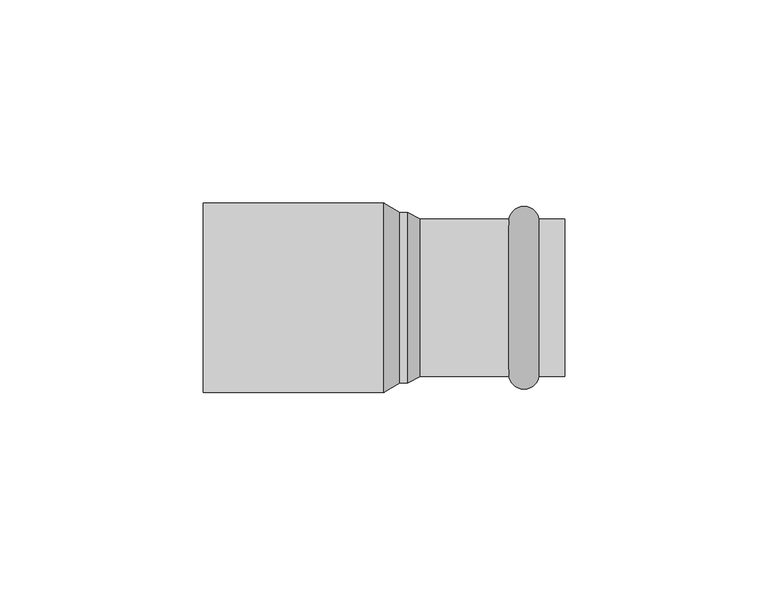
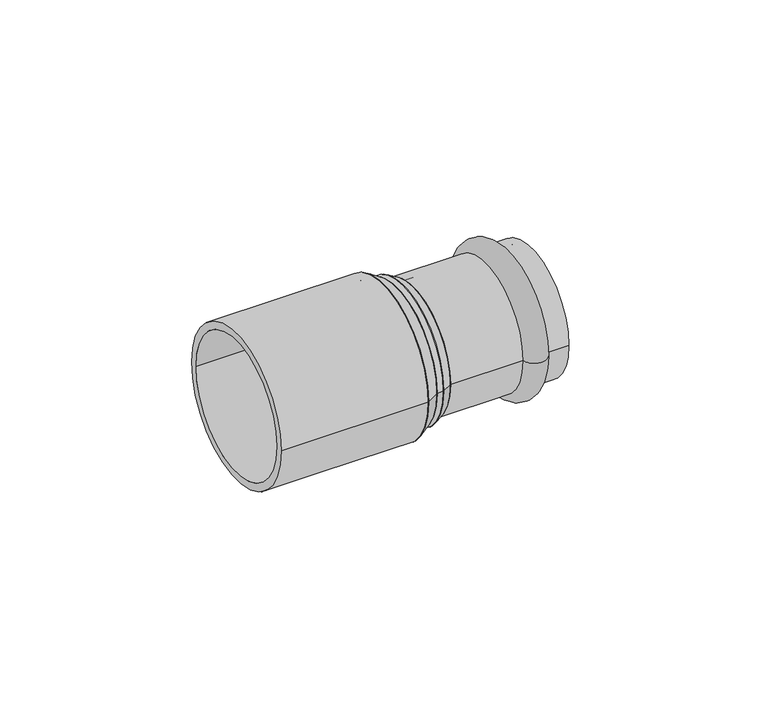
"""IFC4 building model written with IfcOpenShell, lengths in millimetres: pipe fitting geometry, VALTEC_VTi.905.I_Вставка переходная_Нержавеющая сталь : VTi.905.I."""

import ifcopenshell
import ifcopenshell.guid

model = None  # the IFC model being written
_history = None  # IfcOwnerHistory: only IFC2X3 demands one
_inside = {}  # id of a spatial element -> (the spatial element, [elements in it])
_under = {}  # id of a project, library or spatial element -> (it, [spatial elements below it])
_declared = {}  # id of a project -> (the project, [libraries it declares])
_typed = {}  # id of a type object -> (the type object, [elements of that type])
_made_of = {}  # id of a material, layer set ... -> (it, [elements and type objects made of it])


def new_model(schema):
    """Start an empty IFC model of exactly this schema.

    Asked for "IFC4X3", IfcOpenShell would pick the latest addendum, in which some entities
    have other attributes; the version numbers below select the first issue.
    IFC2X3 requires an IfcOwnerHistory on every rooted entity: one is made here for all.
    """
    global model, _history
    if schema == "IFC4X3":
        model = ifcopenshell.file(schema_version=(4, 3, 0, 0))
    else:
        model = ifcopenshell.file(schema=schema)
    _inside.clear()
    _under.clear()
    _declared.clear()
    _typed.clear()
    _made_of.clear()
    _history = None
    if model.schema == "IFC2X3":
        org = make("IfcOrganization", Name="unknown")
        user = make(
            "IfcPersonAndOrganization",
            ThePerson=make("IfcPerson", FamilyName="unknown"),
            TheOrganization=org,
        )
        app = make(
            "IfcApplication",
            ApplicationDeveloper=org,
            Version="unknown",
            ApplicationFullName="unknown",
            ApplicationIdentifier="unknown",
        )
        _history = make(
            "IfcOwnerHistory",
            OwningUser=user,
            OwningApplication=app,
            ChangeAction="ADDED",
            CreationDate=0,
        )
    return model


def make(cls, **values):
    """One entity of the class cls with the attributes given. An attribute that is None is left unset."""
    return model.create_entity(
        cls, **{name: value for name, value in values.items() if value is not None}
    )


def rooted(cls, **values):
    """An entity with a GlobalId (a new one), such as an element, a storey or a relation."""
    return make(cls, GlobalId=ifcopenshell.guid.new(), OwnerHistory=_history, **values)


def si_unit(unit_type, name, prefix=None):
    """IfcSIUnit, for example si_unit("LENGTHUNIT", "METRE", prefix="MILLI")."""
    return make("IfcSIUnit", UnitType=unit_type, Prefix=prefix, Name=name)


def assignment(units):
    """IfcUnitAssignment: the units of a project."""
    return None if units is None else make("IfcUnitAssignment", Units=units)


def point(xyz):
    """IfcCartesianPoint."""
    return None if xyz is None else make("IfcCartesianPoint", Coordinates=xyz)


def direction(xyz):
    """IfcDirection."""
    return None if xyz is None else make("IfcDirection", DirectionRatios=xyz)


def frame(location, z_axis=None, x_axis=None):
    """IfcAxis2Placement3D, a coordinate frame: its origin and axes. An axis left out is left unset."""
    return make(
        "IfcAxis2Placement3D",
        Location=point(location),
        Axis=direction(z_axis),
        RefDirection=direction(x_axis),
    )


def frame_2d(location, x_axis=None):
    """IfcAxis2Placement2D, a coordinate frame in the plane: its origin and x axis."""
    return make(
        "IfcAxis2Placement2D", Location=point(location), RefDirection=direction(x_axis)
    )


def origin():
    """The frame at (0, 0, 0) with its axes left unset."""
    return frame((0.0, 0.0, 0.0))


def origin_2d():
    """The frame at (0, 0) in the plane with its x axis left unset."""
    return frame_2d((0.0, 0.0))


def place(relative_to, where):
    """IfcLocalPlacement: puts the frame where relative to a parent placement (None: the world)."""
    return make(
        "IfcLocalPlacement", PlacementRelTo=relative_to, RelativePlacement=where
    )


def context(
    kind, dimensions, precision=None, world=None, true_north=None, identifier=None
):
    """IfcGeometricRepresentationContext, for example the 3D "Model" context."""
    return make(
        "IfcGeometricRepresentationContext",
        ContextIdentifier=identifier,
        ContextType=kind,
        CoordinateSpaceDimension=dimensions,
        Precision=precision,
        WorldCoordinateSystem=world,
        TrueNorth=true_north,
    )


def project(units=None, contexts=None):
    """IfcProject with its units and contexts."""
    return rooted(
        "IfcProject",
        Name="project",
        RepresentationContexts=contexts,
        UnitsInContext=assignment(units),
    )


def spatial(cls, under=None, at=None, **own):
    """A site, building, storey or space (cls), placed at a placement, below another one or the project."""
    s = rooted(cls, ObjectPlacement=at, **own)
    if under is not None:
        _under.setdefault(under.id(), (under, []))[1].append(s)
    return s


def polyline(points):
    """IfcPolyline through the points."""
    return make("IfcPolyline", Points=[point(p) for p in points])


def circle_curve(where, radius):
    """IfcCircle in the frame where."""
    return make("IfcCircle", Position=where, Radius=radius)


def ellipse_curve(where, semi_axis1, semi_axis2):
    """IfcEllipse in the frame where."""
    return make(
        "IfcEllipse", Position=where, SemiAxis1=semi_axis1, SemiAxis2=semi_axis2
    )


def trimmed(basis, trim1, trim2, sense, master):
    """IfcTrimmedCurve: the piece of a basis curve between two trims."""
    return make(
        "IfcTrimmedCurve",
        BasisCurve=basis,
        Trim1=trim1,
        Trim2=trim2,
        SenseAgreement=sense,
        MasterRepresentation=master,
    )


def segment(curve, same_sense, transition):
    """IfcCompositeCurveSegment."""
    return make(
        "IfcCompositeCurveSegment",
        Transition=transition,
        SameSense=same_sense,
        ParentCurve=curve,
    )


def composite_curve(segments, self_intersect=None):
    """IfcCompositeCurve: segments joined end to end."""
    return make("IfcCompositeCurve", Segments=segments, SelfIntersect=self_intersect)


def outline(outer, holes=None, kind="AREA"):
    """IfcArbitraryClosedProfileDef: a profile drawn as a closed curve; with holes, ...WithVoids."""
    if holes is None:
        return make("IfcArbitraryClosedProfileDef", ProfileType=kind, OuterCurve=outer)
    return make(
        "IfcArbitraryProfileDefWithVoids",
        ProfileType=kind,
        OuterCurve=outer,
        InnerCurves=holes,
    )


def extrude(swept, where, along, depth):
    """IfcExtrudedAreaSolid: the profile swept, set in the frame where, extruded along a direction by depth."""
    return make(
        "IfcExtrudedAreaSolid",
        SweptArea=swept,
        Position=where,
        ExtrudedDirection=direction(along),
        Depth=depth,
    )


def shape(context_of_items, identifier, shape_type, items):
    """IfcShapeRepresentation: the items that make up one representation, for example the "Body"."""
    return make(
        "IfcShapeRepresentation",
        ContextOfItems=context_of_items,
        RepresentationIdentifier=identifier,
        RepresentationType=shape_type,
        Items=items,
    )


def source(mapping_origin, context_of_items, identifier, shape_type, items):
    """IfcRepresentationMap: a shape defined once, which mapped items show again and again."""
    return make(
        "IfcRepresentationMap",
        MappingOrigin=mapping_origin,
        MappedRepresentation=shape(context_of_items, identifier, shape_type, items),
    )


def transform(
    local_origin,
    x_axis=None,
    y_axis=None,
    z_axis=None,
    scale=None,
    scale2=None,
    scale3=None,
    uniform=True,
):
    """IfcCartesianTransformationOperator3D, or its non-uniform kind. x_axis, y_axis, z_axis: its Axis1, 2, 3."""
    if uniform:
        return make(
            "IfcCartesianTransformationOperator3D",
            Axis1=direction(x_axis),
            Axis2=direction(y_axis),
            LocalOrigin=point(local_origin),
            Scale=scale,
            Axis3=direction(z_axis),
        )
    return make(
        "IfcCartesianTransformationOperator3DnonUniform",
        Axis1=direction(x_axis),
        Axis2=direction(y_axis),
        LocalOrigin=point(local_origin),
        Scale=scale,
        Axis3=direction(z_axis),
        Scale2=scale2,
        Scale3=scale3,
    )


def mapped(mapping_source, mapping_target):
    """IfcMappedItem: shows the shape of a source again, moved by a transform."""
    return make(
        "IfcMappedItem", MappingSource=mapping_source, MappingTarget=mapping_target
    )


def made_of(thing, what):
    """Note that an element or type object is made of a material, layer set ...; save() writes the relation."""
    if what is not None:
        _made_of.setdefault(what.id(), (what, []))[1].append(thing)
    return thing


def element(
    cls,
    number,
    at=None,
    inside=None,
    cuts=None,
    type_object=None,
    material=None,
    context=None,
    identifier="Body",
    shape_type=None,
    held_by="IfcProductDefinitionShape",
    body=None,
    shapes=None,
    **own,
):
    """One element of the class cls, such as IfcWall. Its Tag is "e" and its number.

    at: its placement. inside: the storey or other place that contains it. cuts: it is an
    opening in that element (IfcRelVoidsElement). A single representation is given by context,
    identifier, shape_type and body (its items); several are given by shapes. held_by: the class
    of the entity that holds the representations. save() writes the other relations.
    """
    e = rooted(cls, Tag="e%d" % number, ObjectPlacement=at, **own)
    if body is not None:
        shapes = [shape(context, identifier, shape_type, body)]
    if shapes is not None:
        e.Representation = make(held_by, Representations=shapes)
    if inside is not None:
        _inside.setdefault(inside.id(), (inside, []))[1].append(e)
    if cuts is not None:
        rooted(
            "IfcRelVoidsElement", RelatingBuildingElement=cuts, RelatedOpeningElement=e
        )
    if type_object is not None:
        _typed.setdefault(type_object.id(), (type_object, []))[1].append(e)
    return made_of(e, material)


def aggregate(whole, parts):
    """IfcRelAggregates: a whole, such as a stair, and the parts it consists of."""
    return rooted("IfcRelAggregates", RelatingObject=whole, RelatedObjects=parts)


def save(model, path):
    """Write the relations noted so far, then the file.

    IfcRelAggregates (storeys below a building ...), IfcRelContainedInSpatialStructure (elements
    in a storey), IfcRelDefinesByType, IfcRelAssociatesMaterial and IfcRelDeclares: one each for
    every whole, place, type object, material and project.
    """
    for whole, parts in _under.values():
        aggregate(whole, parts)
    for where, things in _inside.values():
        rooted(
            "IfcRelContainedInSpatialStructure",
            RelatedElements=things,
            RelatingStructure=where,
        )
    for kind, things in _typed.values():
        rooted("IfcRelDefinesByType", RelatedObjects=things, RelatingType=kind)
    for what, things in _made_of.values():
        rooted("IfcRelAssociatesMaterial", RelatedObjects=things, RelatingMaterial=what)
    for by, libraries in _declared.values():
        rooted("IfcRelDeclares", RelatingContext=by, RelatedDefinitions=libraries)
    model.write(path)


def plane_surface(at):
    """IfcPlane: the flat surface through the origin of the frame at, square to its z axis."""
    return make("IfcPlane", Position=at)


def cylinder_surface(at, radius):
    """IfcCylindricalSurface: all points at the distance radius from the z axis of the frame at."""
    return make("IfcCylindricalSurface", Position=at, Radius=radius)


def revolved_surface(curve, axis_point, axis_direction):
    """IfcSurfaceOfRevolution: the curve turned about the line through axis_point along axis_direction."""
    return make(
        "IfcSurfaceOfRevolution",
        SweptCurve=make("IfcArbitraryOpenProfileDef", ProfileType="CURVE", Curve=curve),
        AxisPosition=make("IfcAxis1Placement", Location=point(axis_point), Axis=direction(axis_direction)),
    )


def advanced_brep(points, edges, surfaces, faces):
    """IfcAdvancedBrep: a solid bounded by faces that lie on surfaces and meet in shared edges.

    An edge is (start, end): straight between two places in points (the first is 0);
    or (start, end, curve); or (start, end, curve, False) where it runs against its curve.
    A face is (place in surfaces, loops), or (place, loops, False) where it looks against
    its surface's normal. A loop lists edges by number (the first is 1), with a minus sign
    where the edge is run from its end to its start. The first loop is the outer one.
    """
    corners = [point(p) for p in points]
    vertices = [make("IfcVertexPoint", VertexGeometry=c) for c in corners]
    made = []
    for start, end, *more in edges:
        made.append(
            make(
                "IfcEdgeCurve",
                EdgeStart=vertices[start],
                EdgeEnd=vertices[end],
                EdgeGeometry=more[0] if more else make("IfcPolyline", Points=[corners[start], corners[end]]),
                SameSense=more[1] if len(more) > 1 else True,
            )
        )
    hull = []
    for where, loops, *sense in faces:
        bounds = []
        for j, loop in enumerate(loops):
            ring = [make("IfcOrientedEdge", EdgeElement=made[abs(k) - 1], Orientation=k > 0) for k in loop]
            bounds.append(
                make(
                    "IfcFaceOuterBound" if j == 0 else "IfcFaceBound",
                    Bound=make("IfcEdgeLoop", EdgeList=ring),
                    Orientation=True,
                )
            )
        hull.append(make("IfcAdvancedFace", Bounds=bounds, FaceSurface=surfaces[where], SameSense=sense[0] if sense else True))
    return make("IfcAdvancedBrep", Outer=make("IfcClosedShell", CfsFaces=hull))


def pipe_fitting_4a3e0a86(model_context):
    return source(origin(), model_context, "Body", "SolidModel", [
        advanced_brep(
        [(38.1432371, -19.4, 0.0), (30.7567629, -19.4, 0.0), (30.7567629, 19.4, 0.0), (38.1432371, 19.4, 0.0), (44.5, -19.4, 0.0), (44.5, 19.4, 0.0), (44.5, -17.5, 0.0), (44.5, 17.5, 0.0), (8.9, -17.5, 0.0), (8.9, 17.5, 0.0), (8.9, -19.4, 0.0), (8.9, 19.4, 0.0)],
        [
            (0, 1, circle_curve(frame((34.45, -18.75, 0.0), z_axis=(0.0, 0.0, -1.0), x_axis=(-1.0, 0.0, 0.0)), 3.75)),
            (1, 2, circle_curve(frame((30.7567629, 0.0, 0.0), z_axis=(1.0, 0.0, 0.0), x_axis=(0.0, 1.0, 0.0)), 19.4)),
            (2, 3, circle_curve(frame((34.45, 18.75, 0.0), z_axis=(0.0, 0.0, -1.0), x_axis=(-1.0, 0.0, 0.0)), 3.75)),
            (3, 0, circle_curve(frame((38.1432371, 0.0, 0.0), z_axis=(-1.0, 0.0, 0.0), x_axis=(0.0, 1.0, 0.0)), 19.4)),
            (2, 1, circle_curve(frame((30.7567629, 0.0, 0.0), z_axis=(1.0, 0.0, 0.0), x_axis=(0.0, 1.0, 0.0)), 19.4)),
            (0, 3, circle_curve(frame((38.1432371, 0.0, 0.0), z_axis=(-1.0, 0.0, 0.0), x_axis=(0.0, 1.0, 0.0)), 19.4)),
            (4, 0),
            (3, 5),
            (5, 4, circle_curve(frame((44.5, 0.0, 0.0), z_axis=(-1.0, 0.0, 0.0), x_axis=(0.0, 1.0, 0.0)), 19.4)),
            (4, 5, circle_curve(frame((44.5, 0.0, 0.0), z_axis=(-1.0, 0.0, 0.0), x_axis=(0.0, 1.0, 0.0)), 19.4)),
            (6, 4),
            (5, 7),
            (7, 6, circle_curve(frame((44.5, 0.0, 0.0), z_axis=(-1.0, 0.0, 0.0), x_axis=(0.0, 1.0, 0.0)), 17.5)),
            (6, 7, circle_curve(frame((44.5, 0.0, 0.0), z_axis=(-1.0, 0.0, 0.0), x_axis=(0.0, 1.0, 0.0)), 17.5)),
            (8, 6),
            (7, 9),
            (9, 8, circle_curve(frame((8.9, 0.0, 0.0), z_axis=(-1.0, 0.0, 0.0), x_axis=(0.0, 1.0, 0.0)), 17.5)),
            (8, 9, circle_curve(frame((8.9, 0.0, 0.0), z_axis=(-1.0, 0.0, 0.0), x_axis=(0.0, 1.0, 0.0)), 17.5)),
            (10, 8),
            (9, 11),
            (11, 10, circle_curve(frame((8.9, 0.0, 0.0), z_axis=(-1.0, 0.0, 0.0), x_axis=(0.0, 1.0, 0.0)), 19.4)),
            (10, 11, circle_curve(frame((8.9, 0.0, 0.0), z_axis=(-1.0, 0.0, 0.0), x_axis=(0.0, 1.0, 0.0)), 19.4)),
            (1, 10),
            (11, 2),
        ],
        [
            revolved_surface(trimmed(ellipse_curve(frame((34.45, 18.75, 0.0), z_axis=(0.0, 0.0, -1.0), x_axis=(-1.0, 0.0, 0.0)), 3.75, 3.75), [point((30.7567629, 19.4, 0.0))], [point((38.1432371, 19.4, 0.0))], True, "CARTESIAN"), (48.0364426, 0.0, 0.0), (1.0, 0.0, 0.0)),
            cylinder_surface(frame((48.0364426, 0.0, 0.0), z_axis=(1.0, 0.0, 0.0), x_axis=(0.0, 1.0, 0.0)), 19.4),
            plane_surface(frame((44.5, 0.0, 0.0), z_axis=(1.0, 0.0, 0.0), x_axis=(0.0, 1.0, 0.0))),
            revolved_surface(polyline([(44.5, 17.5, 0.0), (8.899999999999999, 17.5, 0.0)]), (48.0364426, 0.0, 0.0), (1.0, 0.0, 0.0)),
            plane_surface(frame((8.9, 0.0, 0.0), z_axis=(-1.0, 0.0, 0.0), x_axis=(0.0, 1.0, 0.0))),
        ],
        [
            (0, [[1, 2, 3, 4]]),
            (0, [[-3, 5, -1, 6]]),
            (1, [[7, -4, 8, 9]]),
            (1, [[-8, -6, -7, 10]]),
            (2, [[11, -9, 12, 13]]),
            (2, [[-12, -10, -11, 14]]),
            (3, [[15, -13, 16, 17]]),
            (3, [[-16, -14, -15, 18]]),
            (4, [[19, -17, 20, 21]]),
            (4, [[-20, -18, -19, 22]]),
            (1, [[23, -21, 24, -2]]),
            (1, [[-24, -22, -23, -5]]),
        ],
    ),
        advanced_brep(
        [(5.9, -21.0, 0.0), (5.9, 21.0, 0.0), (8.9, -19.4, 0.0), (8.9, 19.4, 0.0)],
        [
            (0, 1, circle_curve(frame((5.9, 0.0, 0.0), z_axis=(-1.0, 0.0, 0.0), x_axis=(0.0, -1.0, 0.0)), 21.0)),
            (1, 0, circle_curve(frame((5.9, 0.0, 0.0), z_axis=(-1.0, 0.0, 0.0), x_axis=(0.0, 1.0, 0.0)), 21.0)),
            (2, 3, circle_curve(frame((8.9, 0.0, 0.0), z_axis=(1.0, 0.0, 0.0), x_axis=(0.0, 1.0, 0.0)), 19.4)),
            (3, 2, circle_curve(frame((8.9, 0.0, 0.0), z_axis=(1.0, 0.0, 0.0), x_axis=(0.0, -1.0, 0.0)), 19.4)),
            (2, 0),
            (1, 3),
        ],
        [
            plane_surface(frame((5.9, 0.0, 0.0), z_axis=(-1.0, 0.0, 0.0), x_axis=(0.0, 0.0, 1.0))),
            plane_surface(frame((8.9, 0.0, 0.0), z_axis=(1.0, 0.0, 0.0), x_axis=(0.0, 0.0, 1.0))),
            revolved_surface(polyline([(8.899999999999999, -19.400000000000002, 0.0), (5.899999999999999, -21.0, 0.0)]), (45.275, 0.0, 0.0), (-1.0, 0.0, 0.0)),
            revolved_surface(polyline([(8.899999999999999, 19.400000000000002, 0.0), (5.899999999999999, 21.0, 0.0)]), (45.275, 0.0, 0.0), (-1.0, 0.0, 0.0)),
        ],
        [
            (0, [[1, 2]]),
            (1, [[3, 4]]),
            (2, [[-3, 5, -2, 6]]),
            (3, [[-4, -6, -1, -5]]),
        ],
    ),
        extrude(outline(composite_curve([segment(trimmed(circle_curve(origin_2d(), 21.0), [point((-21.0, 0.0))], [point((21.0, 0.0))], False, "CARTESIAN"), True, "CONTINUOUS"), segment(trimmed(circle_curve(origin_2d(), 21.0), [point((21.0, 0.0))], [point((-21.0, 0.0))], False, "CARTESIAN"), True, "CONTINUOUS")], self_intersect=False)), frame((3.9, 0.0, 0.0), z_axis=(1.0, 0.0, 0.0), x_axis=(0.0, 1.0, 0.0)), (0.0, 0.0, 1.0), 2.0),
        advanced_brep(
        [(3.9, -21.0, 0.0), (3.9, 21.0, 0.0), (0.0, -23.35, 0.0), (0.0, 23.35, 0.0)],
        [
            (0, 1, circle_curve(frame((3.9, 0.0, 0.0), z_axis=(1.0, 0.0, 0.0), x_axis=(0.0, -1.0, 0.0)), 21.0)),
            (1, 0, circle_curve(frame((3.9, 0.0, 0.0), z_axis=(1.0, 0.0, 0.0), x_axis=(0.0, 1.0, 0.0)), 21.0)),
            (2, 3, circle_curve(frame((0.0, 0.0, 0.0), z_axis=(-1.0, 0.0, 0.0), x_axis=(0.0, 1.0, 0.0)), 23.35)),
            (3, 2, circle_curve(frame((0.0, 0.0, 0.0), z_axis=(-1.0, 0.0, 0.0), x_axis=(0.0, -1.0, 0.0)), 23.35)),
            (3, 1),
            (0, 2),
        ],
        [
            plane_surface(frame((3.9, 0.0, 0.0), z_axis=(1.0, 0.0, 0.0), x_axis=(0.0, 0.0, -1.0))),
            plane_surface(frame((0.0, 0.0, 0.0), z_axis=(-1.0, 0.0, 0.0), x_axis=(0.0, 0.0, -1.0))),
            revolved_surface(polyline([(3.8999999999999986, -20.999999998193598, 0.0), (0.0, -23.35, 0.0)]), (38.7510638, 0.0, 0.0), (-1.0, 0.0, 0.0)),
            revolved_surface(polyline([(3.8999999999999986, 20.999999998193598, 0.0), (0.0, 23.35, 0.0)]), (38.7510638, 0.0, 0.0), (-1.0, 0.0, 0.0)),
        ],
        [
            (0, [[1, 2]]),
            (1, [[3, 4]]),
            (2, [[-4, 5, -1, 6]]),
            (3, [[-3, -6, -2, -5]]),
        ],
    ),
        extrude(outline(composite_curve([segment(trimmed(circle_curve(origin_2d(), 23.35), [point((-23.35, 0.0))], [point((23.35, 0.0))], False, "CARTESIAN"), True, "CONTINUOUS"), segment(trimmed(circle_curve(origin_2d(), 23.35), [point((23.35, 0.0))], [point((-23.35, 0.0))], False, "CARTESIAN"), True, "CONTINUOUS")], self_intersect=False), holes=[composite_curve([segment(trimmed(circle_curve(origin_2d(), 21.0), [point((-21.0, 0.0))], [point((21.0, 0.0))], True, "CARTESIAN"), True, "CONTINUOUS"), segment(trimmed(circle_curve(origin_2d(), 21.0), [point((21.0, 0.0))], [point((-21.0, 0.0))], True, "CARTESIAN"), True, "CONTINUOUS")], self_intersect=False)]), frame((-44.5, 0.0, 0.0), z_axis=(1.0, 0.0, 0.0), x_axis=(0.0, 1.0, 0.0)), (0.0, 0.0, 1.0), 44.5),
    ])


if __name__ == "__main__":
    model = new_model("IFC4")
    model_context = context("Model", 3, world=origin())
    ifc_project = project(units=[si_unit("LENGTHUNIT", "METRE", prefix="MILLI")], contexts=[model_context])
    site = spatial("IfcSite", under=ifc_project)
    building = spatial("IfcBuilding", under=site)
    placement = place(None, origin())
    pipe_fitting_shape = pipe_fitting_4a3e0a86(model_context)
    element("IfcPipeFitting", 1, ObjectType="VALTEC_VTi.905.I_Вставка переходная_Нержавеющая сталь : VTi.905.I", at=placement, inside=building, context=model_context, shape_type="MappedRepresentation", body=[
        mapped(pipe_fitting_shape, transform((0.0, 0.0, 0.0), x_axis=(1.0, 0.0, 0.0), y_axis=(0.0, 1.0, 0.0), z_axis=(0.0, 0.0, 1.0))),
    ])
    save(model, "model.ifc")
